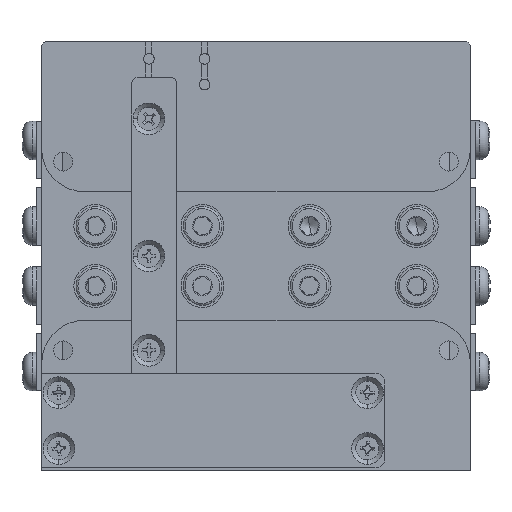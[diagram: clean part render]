
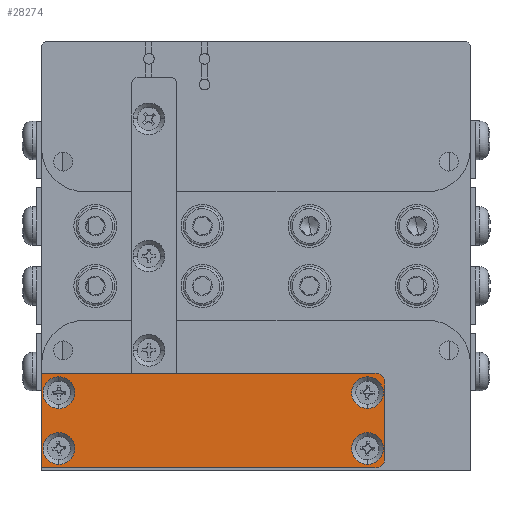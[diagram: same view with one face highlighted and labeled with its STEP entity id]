
A CAD part, front view. The second image highlights one B-rep face of the part: STEP entity #28274.
In plain terms, the highlighted planar face has unit normal (0, -1, 0).
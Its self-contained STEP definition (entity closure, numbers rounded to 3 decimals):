
#733 = DIRECTION ( 'NONE',  ( 1., 0., 0. ) ) ;
#1299 = ORIENTED_EDGE ( 'NONE', *, *, #6916, .F. ) ;
#1669 = AXIS2_PLACEMENT_3D ( 'NONE', #32801, #40651, #8604 ) ;
#2456 = VERTEX_POINT ( 'NONE', #12044 ) ;
#3410 = CARTESIAN_POINT ( 'NONE',  ( 15., -0.3, -14.7 ) ) ;
#3748 = LINE ( 'NONE', #18005, #4146 ) ;
#3871 = VERTEX_POINT ( 'NONE', #20422 ) ;
#3996 = VERTEX_POINT ( 'NONE', #34069 ) ;
#4060 = ORIENTED_EDGE ( 'NONE', *, *, #27828, .F. ) ;
#4072 = AXIS2_PLACEMENT_3D ( 'NONE', #43496, #29112, #29345 ) ;
#4146 = VECTOR ( 'NONE', #35746, 1000. ) ;
#4235 = LINE ( 'NONE', #18497, #6951 ) ;
#4725 = VERTEX_POINT ( 'NONE', #3410 ) ;
#5205 = EDGE_CURVE ( 'NONE', #17857, #9950, #33126, .T. ) ;
#5340 = DIRECTION ( 'NONE',  ( 0., 0., -1. ) ) ;
#5654 = AXIS2_PLACEMENT_3D ( 'NONE', #20120, #45515, #5340 ) ;
#5758 = EDGE_CURVE ( 'NONE', #15934, #22785, #7022, .T. ) ;
#6874 = ORIENTED_EDGE ( 'NONE', *, *, #28179, .F. ) ;
#6916 = EDGE_CURVE ( 'NONE', #45032, #16113, #15321, .T. ) ;
#6951 = VECTOR ( 'NONE', #733, 1000. ) ;
#7022 = CIRCLE ( 'NONE', #18209, 1. ) ;
#7853 = VECTOR ( 'NONE', #34385, 1000. ) ;
#8604 = DIRECTION ( 'NONE',  ( 0., 0., -1. ) ) ;
#8612 = CARTESIAN_POINT ( 'NONE',  ( 13., -0.3, -24.3 ) ) ;
#8828 = DIRECTION ( 'NONE',  ( 0., -1., 0. ) ) ;
#9268 = DIRECTION ( 'NONE',  ( 0., -1., 0. ) ) ;
#9950 = VERTEX_POINT ( 'NONE', #44036 ) ;
#10851 = AXIS2_PLACEMENT_3D ( 'NONE', #26855, #30142, #12295 ) ;
#11132 = AXIS2_PLACEMENT_3D ( 'NONE', #43297, #33431, #11532 ) ;
#11388 = EDGE_CURVE ( 'NONE', #3871, #15934, #4235, .T. ) ;
#11532 = DIRECTION ( 'NONE',  ( 0., 0., -1. ) ) ;
#12044 = CARTESIAN_POINT ( 'NONE',  ( 13., -0.3, -17.8 ) ) ;
#12295 = DIRECTION ( 'NONE',  ( 0., 0., -1. ) ) ;
#12474 = AXIS2_PLACEMENT_3D ( 'NONE', #37297, #9268, #30856 ) ;
#12476 = FACE_BOUND ( 'NONE', #26192, .T. ) ;
#12730 = ORIENTED_EDGE ( 'NONE', *, *, #5205, .F. ) ;
#12948 = FACE_BOUND ( 'NONE', #15082, .T. ) ;
#13384 = CIRCLE ( 'NONE', #44963, 1.85 ) ;
#14101 = EDGE_CURVE ( 'NONE', #3996, #2456, #16955, .T. ) ;
#14185 = DIRECTION ( 'NONE',  ( 0., -1., 0. ) ) ;
#15082 = EDGE_LOOP ( 'NONE', ( #37821, #6874 ) ) ;
#15321 = CIRCLE ( 'NONE', #10851, 1.85 ) ;
#15725 = ORIENTED_EDGE ( 'NONE', *, *, #24432, .T. ) ;
#15934 = VERTEX_POINT ( 'NONE', #35865 ) ;
#16113 = VERTEX_POINT ( 'NONE', #30141 ) ;
#16955 = CIRCLE ( 'NONE', #12474, 1.85 ) ;
#17336 = EDGE_CURVE ( 'NONE', #40272, #30674, #3748, .T. ) ;
#17564 = EDGE_LOOP ( 'NONE', ( #33328, #38225 ) ) ;
#17857 = VERTEX_POINT ( 'NONE', #8612 ) ;
#18005 = CARTESIAN_POINT ( 'NONE',  ( -25., -0.3, -13.7 ) ) ;
#18209 = AXIS2_PLACEMENT_3D ( 'NONE', #36720, #32911, #33162 ) ;
#18497 = CARTESIAN_POINT ( 'NONE',  ( -25., -0.3, -24.7 ) ) ;
#19280 = PLANE ( 'NONE',  #33707 ) ;
#20018 = LINE ( 'NONE', #42125, #7853 ) ;
#20106 = EDGE_CURVE ( 'NONE', #16113, #45032, #31381, .T. ) ;
#20120 = CARTESIAN_POINT ( 'NONE',  ( -23., -0.3, -15.95 ) ) ;
#20422 = CARTESIAN_POINT ( 'NONE',  ( -25., -0.3, -24.7 ) ) ;
#21205 = ORIENTED_EDGE ( 'NONE', *, *, #11388, .T. ) ;
#21916 = DIRECTION ( 'NONE',  ( 0., -1., 0. ) ) ;
#22144 = DIRECTION ( 'NONE',  ( 0., 0., -1. ) ) ;
#22274 = LINE ( 'NONE', #25829, #39724 ) ;
#22785 = VERTEX_POINT ( 'NONE', #33871 ) ;
#22793 = FACE_BOUND ( 'NONE', #17564, .T. ) ;
#23018 = FACE_OUTER_BOUND ( 'NONE', #45473, .T. ) ;
#23612 = ORIENTED_EDGE ( 'NONE', *, *, #20106, .F. ) ;
#24271 = CIRCLE ( 'NONE', #4072, 1. ) ;
#24432 = EDGE_CURVE ( 'NONE', #22785, #4725, #20018, .T. ) ;
#25091 = EDGE_CURVE ( 'NONE', #4725, #30674, #24271, .T. ) ;
#25252 = ORIENTED_EDGE ( 'NONE', *, *, #5758, .T. ) ;
#25287 = ORIENTED_EDGE ( 'NONE', *, *, #25091, .T. ) ;
#25463 = CARTESIAN_POINT ( 'NONE',  ( -23., -0.3, -15.95 ) ) ;
#25829 = CARTESIAN_POINT ( 'NONE',  ( -25., -0.3, -24.7 ) ) ;
#26192 = EDGE_LOOP ( 'NONE', ( #1299, #23612 ) ) ;
#26618 = CARTESIAN_POINT ( 'NONE',  ( -23., -0.3, -17.8 ) ) ;
#26836 = VERTEX_POINT ( 'NONE', #26618 ) ;
#26855 = CARTESIAN_POINT ( 'NONE',  ( -23., -0.3, -22.45 ) ) ;
#27126 = CARTESIAN_POINT ( 'NONE',  ( 13., -0.3, -22.45 ) ) ;
#27293 = DIRECTION ( 'NONE',  ( 0., 0., 1. ) ) ;
#27414 = CARTESIAN_POINT ( 'NONE',  ( -23., -0.3, -24.3 ) ) ;
#27828 = EDGE_CURVE ( 'NONE', #3871, #40272, #22274, .T. ) ;
#28179 = EDGE_CURVE ( 'NONE', #30097, #26836, #13384, .T. ) ;
#28274 = ADVANCED_FACE ( 'NONE', ( #12476, #12948, #37457, #22793, #23018 ), #19280, .F. ) ;
#28577 = AXIS2_PLACEMENT_3D ( 'NONE', #45962, #14185, #46195 ) ;
#28597 = CARTESIAN_POINT ( 'NONE',  ( -23., -0.3, -14.1 ) ) ;
#29112 = DIRECTION ( 'NONE',  ( 0., -1., 0. ) ) ;
#29138 = EDGE_CURVE ( 'NONE', #26836, #30097, #39444, .T. ) ;
#29345 = DIRECTION ( 'NONE',  ( 0., 0., 1. ) ) ;
#29603 = CARTESIAN_POINT ( 'NONE',  ( 14., -0.3, -13.7 ) ) ;
#30097 = VERTEX_POINT ( 'NONE', #28597 ) ;
#30141 = CARTESIAN_POINT ( 'NONE',  ( -23., -0.3, -20.6 ) ) ;
#30142 = DIRECTION ( 'NONE',  ( 0., -1., 0. ) ) ;
#30219 = EDGE_CURVE ( 'NONE', #9950, #17857, #30520, .T. ) ;
#30520 = CIRCLE ( 'NONE', #44809, 1.85 ) ;
#30674 = VERTEX_POINT ( 'NONE', #29603 ) ;
#30856 = DIRECTION ( 'NONE',  ( 0., 0., -1. ) ) ;
#31381 = CIRCLE ( 'NONE', #11132, 1.85 ) ;
#32361 = CIRCLE ( 'NONE', #28577, 1.85 ) ;
#32673 = DIRECTION ( 'NONE',  ( 0., 0., 1. ) ) ;
#32801 = CARTESIAN_POINT ( 'NONE',  ( 13., -0.3, -22.45 ) ) ;
#32911 = DIRECTION ( 'NONE',  ( 0., -1., 0. ) ) ;
#33126 = CIRCLE ( 'NONE', #1669, 1.85 ) ;
#33162 = DIRECTION ( 'NONE',  ( 0., 0., 1. ) ) ;
#33198 = ORIENTED_EDGE ( 'NONE', *, *, #17336, .F. ) ;
#33328 = ORIENTED_EDGE ( 'NONE', *, *, #41206, .F. ) ;
#33431 = DIRECTION ( 'NONE',  ( 0., -1., 0. ) ) ;
#33707 = AXIS2_PLACEMENT_3D ( 'NONE', #36985, #45163, #27293 ) ;
#33754 = ORIENTED_EDGE ( 'NONE', *, *, #30219, .F. ) ;
#33871 = CARTESIAN_POINT ( 'NONE',  ( 15., -0.3, -23.7 ) ) ;
#34069 = CARTESIAN_POINT ( 'NONE',  ( 13., -0.3, -14.1 ) ) ;
#34385 = DIRECTION ( 'NONE',  ( 0., 0., 1. ) ) ;
#35746 = DIRECTION ( 'NONE',  ( 1., 0., 0. ) ) ;
#35865 = CARTESIAN_POINT ( 'NONE',  ( 14., -0.3, -24.7 ) ) ;
#36720 = CARTESIAN_POINT ( 'NONE',  ( 14., -0.3, -23.7 ) ) ;
#36985 = CARTESIAN_POINT ( 'NONE',  ( -5., -0.3, -24.7 ) ) ;
#37297 = CARTESIAN_POINT ( 'NONE',  ( 13., -0.3, -15.95 ) ) ;
#37457 = FACE_BOUND ( 'NONE', #39661, .T. ) ;
#37821 = ORIENTED_EDGE ( 'NONE', *, *, #29138, .F. ) ;
#38225 = ORIENTED_EDGE ( 'NONE', *, *, #14101, .F. ) ;
#38449 = CARTESIAN_POINT ( 'NONE',  ( -25., -0.3, -13.7 ) ) ;
#39444 = CIRCLE ( 'NONE', #5654, 1.85 ) ;
#39661 = EDGE_LOOP ( 'NONE', ( #12730, #33754 ) ) ;
#39724 = VECTOR ( 'NONE', #32673, 1000. ) ;
#40272 = VERTEX_POINT ( 'NONE', #38449 ) ;
#40651 = DIRECTION ( 'NONE',  ( 0., -1., 0. ) ) ;
#41206 = EDGE_CURVE ( 'NONE', #2456, #3996, #32361, .T. ) ;
#42125 = CARTESIAN_POINT ( 'NONE',  ( 15., -0.3, -24.7 ) ) ;
#43297 = CARTESIAN_POINT ( 'NONE',  ( -23., -0.3, -22.45 ) ) ;
#43496 = CARTESIAN_POINT ( 'NONE',  ( 14., -0.3, -14.7 ) ) ;
#44036 = CARTESIAN_POINT ( 'NONE',  ( 13., -0.3, -20.6 ) ) ;
#44794 = DIRECTION ( 'NONE',  ( 0., 0., -1. ) ) ;
#44809 = AXIS2_PLACEMENT_3D ( 'NONE', #27126, #8828, #44794 ) ;
#44963 = AXIS2_PLACEMENT_3D ( 'NONE', #25463, #21916, #22144 ) ;
#45032 = VERTEX_POINT ( 'NONE', #27414 ) ;
#45163 = DIRECTION ( 'NONE',  ( 0., 1., 0. ) ) ;
#45473 = EDGE_LOOP ( 'NONE', ( #21205, #25252, #15725, #25287, #33198, #4060 ) ) ;
#45515 = DIRECTION ( 'NONE',  ( 0., -1., 0. ) ) ;
#45962 = CARTESIAN_POINT ( 'NONE',  ( 13., -0.3, -15.95 ) ) ;
#46195 = DIRECTION ( 'NONE',  ( 0., 0., -1. ) ) ;
